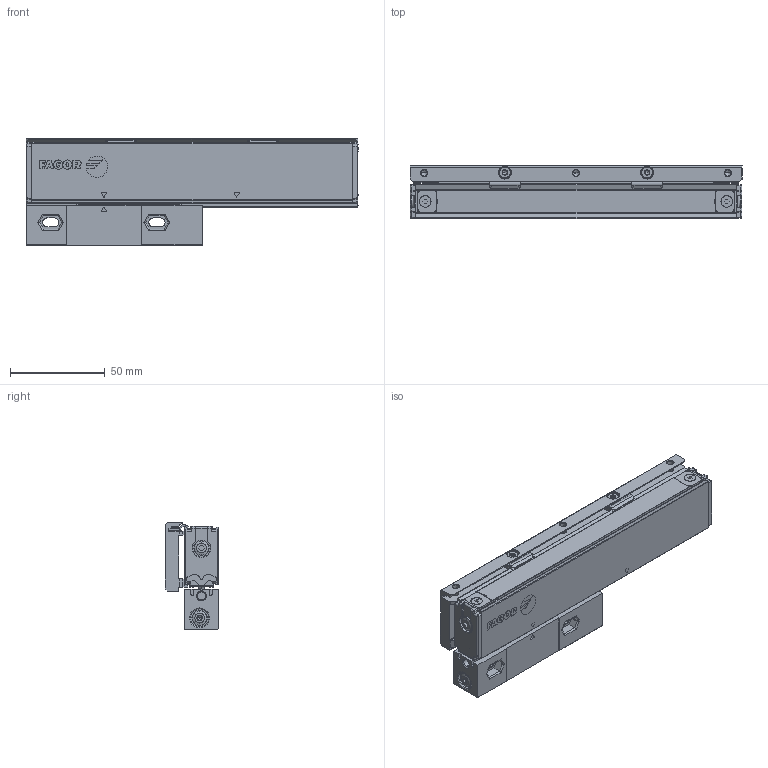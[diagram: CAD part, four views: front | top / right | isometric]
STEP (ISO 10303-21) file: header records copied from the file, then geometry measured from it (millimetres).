
FILE_DESCRIPTION(('Creo Elements/Direct Modeling STEP Export'),'2;1');
FILE_NAME('Regla SV2-70-V01A.stp','2022-11-30T 8:29:27',(''),(''),'Creo Elements/Direct Modeling STEP processor for AP214 (Solid Model)','Creo Elements/Direct Modeling 20.4A 18-Oct-2021 (C) Parametric Technology GmbH','');
FILE_SCHEMA(('AUTOMOTIVE_DESIGN { 1 0 10303 214 1 1 1 1 }'));
Length unit declared in the file: millimetre
Products named in the file (4): Soporte_SV3-70; CABEZA_RANURADA_REGLA_SV2; REGLA_SV2-70; REGLA_SV2-70-V01A
Assembly tree (3 placements, depth 2):
  REGLA_SV2-70-V01A
    REGLA_SV2-70
    CABEZA_RANURADA_REGLA_SV2
    Soporte_SV3-70
Bounding box: 175 x 28 x 56.2 mm (x, y, z)
Volume: 164111.5 mm3; surface area: 62480.4 mm2
Topology: 3 solids, 11 shells, 1245 faces, 3351 edges, 2178 vertices
Faces by surface type: plane 570, cylinder 456, cone 128, bspline 74, torus 10, sphere 4, extrusion 3
Entity records: 48193 total; most frequent: CARTESIAN_POINT 11402, ORIENTED_EDGE 6658, DIRECTION 5788, EDGE_CURVE 3329, VERTEX_POINT 2178, AXIS2_PLACEMENT_3D 1947, VECTOR 1894, LINE 1891
